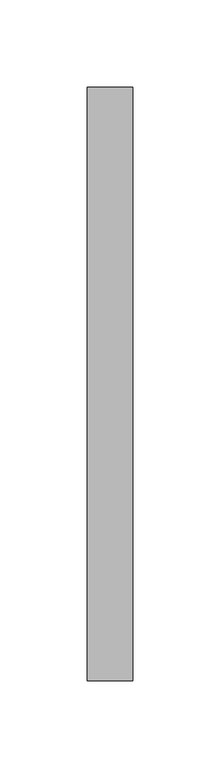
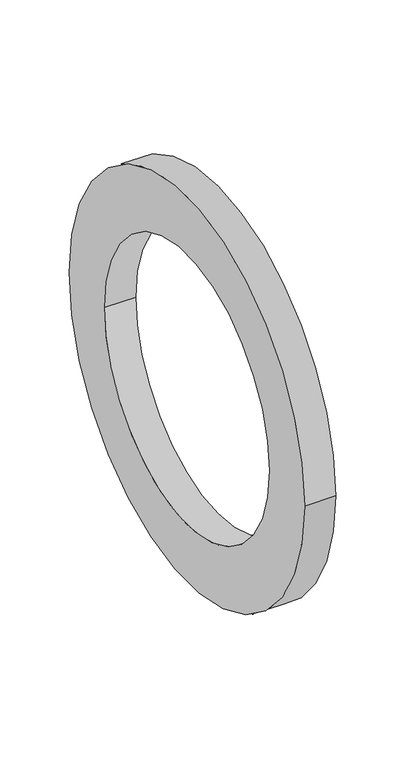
"""IFC4 building model written with IfcOpenShell, lengths in millimetres: pipe fitting geometry, NIRON accesorio brida : Estándar."""

from ifc_helpers import new_model, si_unit, point, frame, origin, origin_2d, place, context, project, spatial, circle_curve, trimmed, segment, composite_curve, outline, extrude, source, transform, mapped, element, save


def pipe_fitting_573757dd(model_context):
    return source(origin(), model_context, "Body", "SweptSolid", [
        extrude(outline(composite_curve([segment(trimmed(circle_curve(origin_2d(), 170.0), [point((170.0, 0.0))], [point((-170.0, 0.0))], False, "CARTESIAN"), True, "CONTINUOUS"), segment(trimmed(circle_curve(origin_2d(), 170.0), [point((-170.0, 0.0))], [point((170.0, 0.0))], False, "CARTESIAN"), True, "CONTINUOUS")], self_intersect=False), holes=[composite_curve([segment(trimmed(circle_curve(origin_2d(), 119.0), [point((119.0, 0.0))], [point((-119.0, 0.0))], True, "CARTESIAN"), True, "CONTINUOUS"), segment(trimmed(circle_curve(origin_2d(), 119.0), [point((-119.0, 0.0))], [point((119.0, 0.0))], True, "CARTESIAN"), True, "CONTINUOUS")], self_intersect=False)]), frame((2.4830127, 0.0, 0.0), z_axis=(1.0, 0.0, 0.0), x_axis=(0.0, 1.0, 0.0)), (0.0, 0.0, 1.0), 26.0),
    ])


if __name__ == "__main__":
    model = new_model("IFC4")
    model_context = context("Model", 3, world=origin())
    ifc_project = project(units=[si_unit("LENGTHUNIT", "METRE", prefix="MILLI")], contexts=[model_context])
    site = spatial("IfcSite", under=ifc_project)
    building = spatial("IfcBuilding", under=site)
    placement = place(None, origin())
    pipe_fitting_shape = pipe_fitting_573757dd(model_context)
    element("IfcPipeFitting", 1, ObjectType="NIRON accesorio brida : Estándar", at=placement, inside=building, context=model_context, shape_type="MappedRepresentation", body=[
        mapped(pipe_fitting_shape, transform((0.0, 0.0, 0.0), x_axis=(1.0, 0.0, 0.0), y_axis=(0.0, 1.0, 0.0), z_axis=(0.0, 0.0, 1.0))),
    ])
    save(model, "model.ifc")
